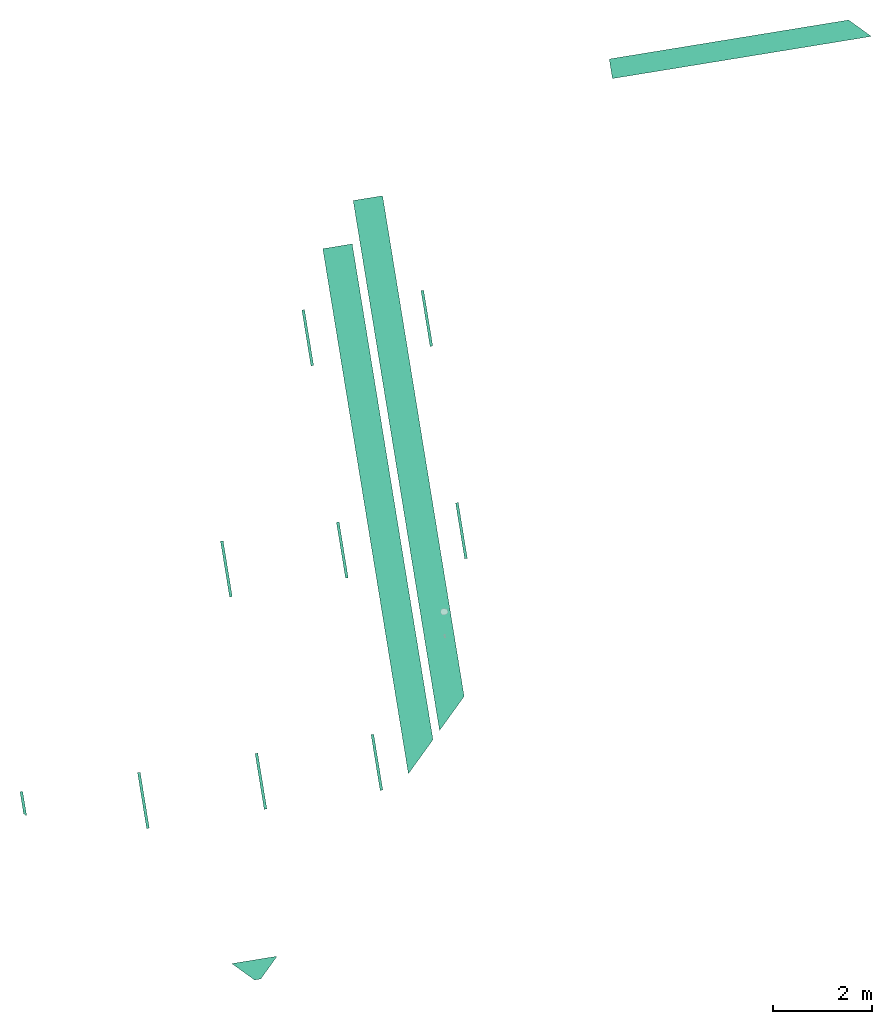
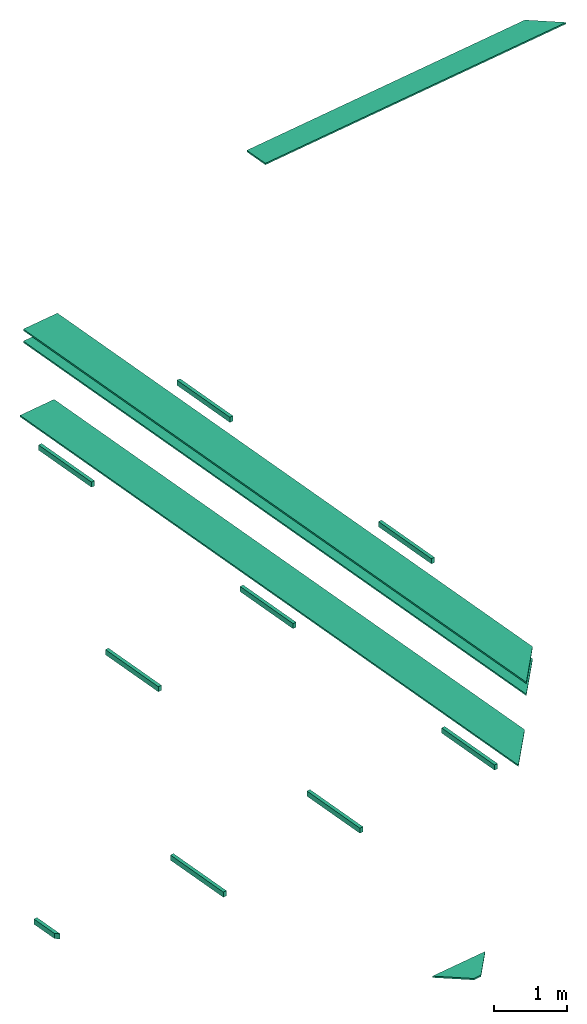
# One storey, part 1 of 2: 9 flow terminals, 5 flow segments.
"""IFC2X3 building model written with IfcOpenShell, lengths in millimetres."""

from ifc_helpers import new_model, entity, si_unit, converted_unit, derived_unit, direction, frame, frame_2d, origin, origin_with_axes, origin_2d_with_axis, place, context, subcontext, project, spatial, rectangle, extrude, faceted_brep, source, transform, mapped, material, material_list, type_object, element, save


model = new_model("IFC2X3")

# Units and contexts
model_context = context("Model", 3, precision=0.01, world=origin(), true_north=direction((6.12323399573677e-17, 1.0)))
plan_context = context("Plan", 3, precision=1e-05, world=origin_with_axes())
body_context = subcontext(model_context, "Body", "Model", "MODEL_VIEW")
ifc_project = project(units=[converted_unit("PLANEANGLEUNIT", "DEGREE", entity("IfcPositiveLengthMeasure", 0.0174532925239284), si_unit("PLANEANGLEUNIT", "RADIAN"), dimensions=[0, 0, 0, 0, 0, 0, 0]), si_unit("AREAUNIT", "SQUARE_METRE"), si_unit("LENGTHUNIT", "METRE", prefix="MILLI"), si_unit("MASSUNIT", "GRAM", prefix="KILO"), si_unit("POWERUNIT", "WATT"), si_unit("PRESSUREUNIT", "PASCAL", prefix="KILO"), si_unit("FORCEUNIT", "NEWTON", prefix="KILO"), si_unit("ELECTRICVOLTAGEUNIT", "VOLT"), si_unit("ELECTRICCURRENTUNIT", "AMPERE"), si_unit("THERMODYNAMICTEMPERATUREUNIT", "DEGREE_CELSIUS"), si_unit("TIMEUNIT", "SECOND"), si_unit("VOLUMEUNIT", "CUBIC_METRE"), derived_unit("LINEARVELOCITYUNIT", [(si_unit("LENGTHUNIT", "METRE"), 1), (si_unit("TIMEUNIT", "SECOND"), -1)]), derived_unit("VOLUMETRICFLOWRATEUNIT", [(si_unit("VOLUMEUNIT", "CUBIC_METRE"), 1), (si_unit("TIMEUNIT", "SECOND"), -1)]), derived_unit("THERMALTRANSMITTANCEUNIT", [(si_unit("POWERUNIT", "WATT"), 1), (si_unit("THERMODYNAMICTEMPERATUREUNIT", "KELVIN"), -1), (si_unit("AREAUNIT", "SQUARE_METRE"), -1)]), derived_unit("SOUNDPRESSUREUNIT", [(si_unit("PRESSUREUNIT", "PASCAL"), 1)])], contexts=[model_context, plan_context])

# Site, building, storey
site_placement = place(None, frame((5.09380697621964e-08, 5.80416781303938e-08, 0.0), z_axis=(0.0, 0.0, 1.0), x_axis=(-0.160806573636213, 0.986985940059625, 0.0)))
site = spatial("IfcSite", under=ifc_project, at=site_placement, Name="Default", CompositionType="ELEMENT")
building_placement = place(site_placement, frame((0.0, 0.0, 0.0), z_axis=(0.0, 0.0, 1.0), x_axis=(1.0, -2.77555756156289e-17, 0.0)))
building = spatial("IfcBuilding", under=site, at=building_placement, Name="Bygning (endres i Project Information)", CompositionType="ELEMENT")
storey_placement = place(building_placement, frame((0.0, 0.0, 51360.0000000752), z_axis=(0.0, 0.0, 1.0), x_axis=(1.0, -2.77555756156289e-17, 0.0)))
storey = spatial("IfcBuildingStorey", under=building, at=storey_placement, Name="H01-Nivå D+0,36", CompositionType="ELEMENT", Elevation=51360.0000000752)

# Flow terminals
ifc_material_1 = material(Name="<Unnamed>")
ifc_material_2 = material(Name="Glamox Light Source")
ifc_material_list = material_list([ifc_material_1, ifc_material_2])
light_fixture_type = type_object("IfcLightFixtureType", Name="C80 surfaced:C80-S1150 BL G2 3600 830", PredefinedType="NOTDEFINED", material=ifc_material_list)
shared_shape = source(origin(), body_context, "Body", "SweptSolid", [
    extrude(rectangle(XDim=1140.0, YDim=55.0, at=frame_2d((5.6843418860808e-14, 1.77635683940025e-15), x_axis=(1.0, 0.0))), frame((0.0, 0.0, -80.0)), (0.0, 0.0, 1.0), 80.0000000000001),
    extrude(rectangle(XDim=1140.0, YDim=55.0, at=origin_2d_with_axis()), frame((0.0, 0.0, -85.0), z_axis=(0.0, 0.0, 1.0), x_axis=(-1.0, 0.0, 0.0)), (0.0, 0.0, 1.0), 4.99999999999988),
])
for number, where, z_axis, x_axis in (
    (1, (1004557.93495841, -347191.786165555, 3630.0), (0.0, 0.0, 1.0), (-1.0, 2.77555756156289e-17, 0.0)),
    (2, (1000222.93495841, -347191.786165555, 3630.0), (0.0, 0.0, 1.0), (-1.0, 2.77555756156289e-17, 0.0)),
    (3, (995887.934958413, -344759.286165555, 3630.0), (0.0, 0.0, 1.0), (-1.0, 2.77555756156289e-17, 0.0)),
    (4, (1004557.93495841, -344759.286165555, 3630.0), (0.0, 0.0, 1.0), (-1.0, 2.77555756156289e-17, 0.0)),
    (5, (1000222.93495841, -344759.286165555, 3630.0), (0.0, 0.0, 1.0), (-1.0, 2.77555756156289e-17, 0.0)),
    (6, (995887.934958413, -342391.786165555, 3630.0), (0.0, 0.0, 1.0), (-1.0, 2.77555756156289e-17, 0.0)),
    (7, (1000222.93495841, -342391.786165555, 3630.0), (0.0, 0.0, 1.0), (-1.0, 2.77555756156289e-17, 0.0)),
    (8, (995887.934958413, -339991.786165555, 3630.0), (0.0, 0.0, 1.0), (-1.0, 2.77555756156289e-17, 0.0)),
):
    element("IfcFlowTerminal", number, at=place(storey_placement, frame(where, z_axis=z_axis, x_axis=x_axis)), inside=storey, type_object=light_fixture_type, material=ifc_material_list, Name="C80 surfaced:C80-S1150 BL G2 3600 830", ObjectType="C80 surfaced:C80-S1150 BL G2 3600 830", context=body_context, shape_type="MappedRepresentation", body=[
        mapped(shared_shape, transform((0.0, 0.0, 0.0), scale=1.0)),
    ])

# Flow segments
ifc_material_3 = material(Name="Kabelstige")
cable_carrier_segment_type = type_object("IfcCableCarrierSegmentType", Name="Cable Tray with Fittings:Kabelstige", PredefinedType="CABLETRAYSEGMENT", material=ifc_material_3)
flow_segment_1_placement = place(storey_placement, frame((0.0, 0.0, 0.0), z_axis=(0.0, 0.0, 1.0), x_axis=(1.0, -2.77555756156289e-17, 0.0)))
element("IfcFlowSegment", 9, at=flow_segment_1_placement, inside=storey, type_object=cable_carrier_segment_type, Name="Cable Tray with Fittings:Kabelstige", ObjectType="Cable Tray with Fittings:Kabelstige", context=body_context, shape_type="Brep", body=[
    faceted_brep([(1009125.40770821, -351659.36113278, 3265.0), (1009125.40770821, -351659.36113278, 3289.99999999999), (1008725.40770821, -351659.36113278, 3289.99999999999), (1008725.40770821, -351659.36113278, 3265.0), (1008725.40770821, -356947.234349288, 3289.99999999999), (1008725.40770821, -356947.234349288, 3265.0), (1009125.40770821, -356547.234349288, 3265.0), (1009125.40770821, -356547.234349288, 3289.99999999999)], [[[0, 1, 2, 3]], [[4, 5, 3, 2]], [[6, 7, 1, 0]], [[5, 6, 0, 3]], [[7, 4, 2, 1]], [[7, 6, 5, 4]]], orient=[[False], [False], [False], [False], [False], [False]]),
])
flow_segment_2_placement = place(storey_placement, frame((0.0, 0.0, 0.0), z_axis=(0.0, 0.0, 1.0), x_axis=(1.0, -2.77555756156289e-17, 0.0)))
element("IfcFlowSegment", 10, at=flow_segment_2_placement, inside=storey, type_object=cable_carrier_segment_type, Name="Cable Tray with Fittings:Kabelstige", ObjectType="Cable Tray with Fittings:Kabelstige", context=body_context, shape_type="Brep", body=[
    faceted_brep([(1007140.0010373, -346707.955463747, 3630.0), (1007140.0010373, -346707.955463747, 3654.99999999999), (1007140.0010373, -346107.955463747, 3654.99999999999), (1007140.0010373, -346107.955463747, 3630.0), (996317.164078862, -346107.955463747, 3654.99999999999), (996317.164078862, -346107.955463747, 3630.0), (996917.164078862, -346707.955463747, 3630.0), (996917.164078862, -346707.955463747, 3654.99999999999)], [[[0, 1, 2, 3]], [[4, 5, 3, 2]], [[6, 7, 1, 0]], [[5, 6, 0, 3]], [[7, 4, 2, 1]], [[7, 6, 5, 4]]], orient=[[False], [False], [False], [False], [False], [False]]),
])
flow_segment_3_placement = place(storey_placement, frame((0.0, 0.0, 0.0), z_axis=(0.0, 0.0, 1.0), x_axis=(1.0, -2.77555756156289e-17, 0.0)))
element("IfcFlowSegment", 11, at=flow_segment_3_placement, inside=storey, type_object=cable_carrier_segment_type, Name="Cable Tray with Fittings:Kabelstige", ObjectType="Cable Tray with Fittings:Kabelstige", context=body_context, shape_type="Brep", body=[
    faceted_brep([(1007140.0010373, -346707.955463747, 3830.0), (1007140.0010373, -346707.955463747, 3854.99999999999), (1007140.0010373, -346107.955463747, 3854.99999999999), (1007140.0010373, -346107.955463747, 3830.0), (996317.164078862, -346107.955463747, 3854.99999999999), (996317.164078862, -346107.955463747, 3830.0), (996917.164078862, -346707.955463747, 3830.0), (996917.164078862, -346707.955463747, 3854.99999999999)], [[[0, 1, 2, 3]], [[4, 5, 3, 2]], [[6, 7, 1, 0]], [[5, 6, 0, 3]], [[7, 4, 2, 1]], [[7, 6, 5, 4]]], orient=[[False], [False], [False], [False], [False], [False]]),
])
flow_segment_4_placement = place(storey_placement, frame((0.0, 0.0, 0.0), z_axis=(0.0, 0.0, 1.0), x_axis=(1.0, -2.77555756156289e-17, 0.0)))
element("IfcFlowSegment", 12, at=flow_segment_4_placement, inside=storey, type_object=cable_carrier_segment_type, Name="Cable Tray with Fittings:Kabelstige", ObjectType="Cable Tray with Fittings:Kabelstige", context=body_context, shape_type="Brep", body=[
    faceted_brep([(1006280.0010373, -345947.733819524, 3200.0), (1006280.0010373, -345947.733819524, 3224.99999999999), (1006280.0010373, -345347.733819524, 3224.99999999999), (1006280.0010373, -345347.733819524, 3200.0), (995556.94243464, -345347.733819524, 3224.99999999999), (995556.94243464, -345347.733819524, 3200.0), (996156.94243464, -345947.733819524, 3200.0), (996156.94243464, -345947.733819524, 3224.99999999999)], [[[0, 1, 2, 3]], [[4, 5, 3, 2]], [[6, 7, 1, 0]], [[5, 6, 0, 3]], [[7, 4, 2, 1]], [[7, 6, 5, 4]]], orient=[[False], [False], [False], [False], [False], [False]]),
])
flow_segment_5_placement = place(storey_placement, frame((0.0, 0.0, 0.0), z_axis=(0.0, 0.0, 1.0), x_axis=(1.0, -2.77555756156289e-17, 0.0)))
element("IfcFlowSegment", 13, at=flow_segment_5_placement, inside=storey, type_object=cable_carrier_segment_type, Name="Cable Tray with Fittings:Kabelstige", ObjectType="Cable Tray with Fittings:Kabelstige", context=body_context, shape_type="Brep", body=[
    faceted_brep([(991955.371549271, -341620.764357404, 3260.0), (991955.371549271, -341620.764357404, 3284.99999999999), (991955.371549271, -341746.162934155, 3284.99999999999), (991955.371549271, -341746.162934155, 3260.0), (992355.371549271, -342146.162934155, 3260.0), (992355.371549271, -342146.162934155, 3284.99999999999), (992355.371549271, -341220.764357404, 3284.99999999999), (992355.371549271, -341220.764357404, 3260.0)], [[[0, 1, 2, 3]], [[4, 5, 6, 7]], [[7, 0, 3, 4]], [[1, 6, 5, 2]], [[7, 6, 1, 0]], [[5, 4, 3, 2]]], orient=[[False], [False], [False], [False], [False], [False]]),
])

# Flow terminal
flow_terminal_placement = place(storey_placement, frame((995887.934958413, -337591.786165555, 3630.0), z_axis=(0.0, 0.0, 1.0), x_axis=(-1.0, 2.77555756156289e-17, 0.0)))
element("IfcFlowTerminal", 14, at=flow_terminal_placement, inside=storey, type_object=light_fixture_type, Name="C80 surfaced:C80-S1150 BL G2 3600 830", ObjectType="C80 surfaced:C80-S1150 BL G2 3600 830", context=body_context, shape_type="Brep", body=[
    faceted_brep([(-570.0, 27.5, -80.0), (-570.0, 27.5, 9.9475983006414e-14), (-570.0, -27.5, 9.9475983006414e-14), (-570.0, -27.5, -80.0), (-123.914782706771, -27.5, 9.9475983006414e-14), (-123.914782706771, -27.5, -80.0), (-68.9147827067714, 27.5, -80.0), (-68.9147827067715, 27.5, 9.9475983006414e-14)], [[[0, 1, 2, 3]], [[4, 5, 3, 2]], [[6, 7, 1, 0]], [[5, 6, 0, 3]], [[7, 4, 2, 1]], [[7, 6, 5, 4]]], orient=[[False], [False], [False], [False], [False], [False]]),
    faceted_brep([(-68.9147827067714, 27.5, -85.0), (-68.9147827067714, 27.5, -80.0000000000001), (-570.0, 27.5, -80.0000000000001), (-570.0, 27.5, -85.0), (-570.0, -27.5, -80.0000000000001), (-570.0, -27.5, -85.0), (-123.914782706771, -27.5, -80.0000000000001), (-123.914782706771, -27.5, -85.0)], [[[0, 1, 2, 3]], [[3, 2, 4, 5]], [[6, 7, 5, 4]], [[7, 0, 3, 5]], [[1, 6, 4, 2]], [[7, 6, 1, 0]]], orient=[[False], [False], [False], [False], [False], [False]]),
])

save(model, "model.ifc")
